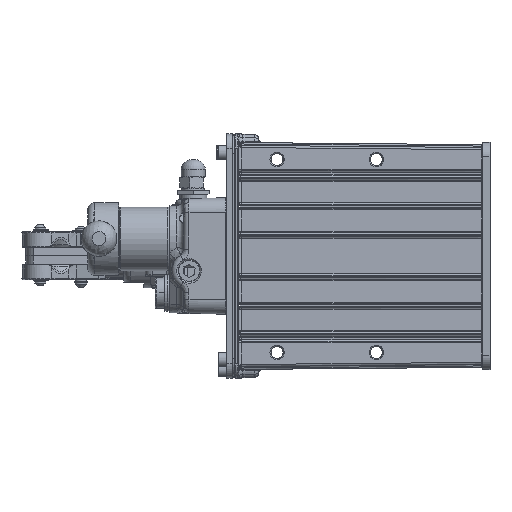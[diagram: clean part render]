
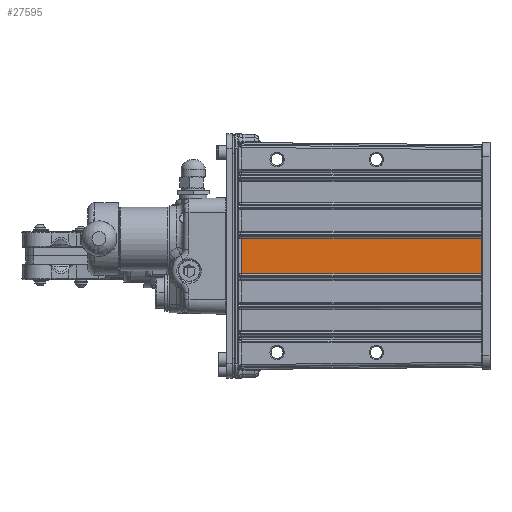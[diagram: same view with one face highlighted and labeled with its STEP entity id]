
A CAD part, left-side view. The second image highlights one B-rep face of the part: STEP entity #27595.
In plain terms, the highlighted planar face has unit normal (-1, -0.009, 0).
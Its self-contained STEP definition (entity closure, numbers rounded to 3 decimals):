
#2286=LINE('',#58020,#3945);
#2287=LINE('',#58029,#3946);
#2288=LINE('',#58032,#3947);
#2289=LINE('',#58033,#3948);
#3945=VECTOR('',#37511,1000.);
#3946=VECTOR('',#37516,1000.);
#3947=VECTOR('',#37517,1000.);
#3948=VECTOR('',#37518,1000.);
#8463=ORIENTED_EDGE('',*,*,#15174,.T.);
#8464=ORIENTED_EDGE('',*,*,#15175,.T.);
#8465=ORIENTED_EDGE('',*,*,#15171,.T.);
#8466=ORIENTED_EDGE('',*,*,#15176,.T.);
#15171=EDGE_CURVE('',#19231,#19232,#2286,.T.);
#15174=EDGE_CURVE('',#19233,#19234,#2287,.T.);
#15175=EDGE_CURVE('',#19234,#19231,#2288,.T.);
#15176=EDGE_CURVE('',#19232,#19233,#2289,.T.);
#19231=VERTEX_POINT('',#58021);
#19232=VERTEX_POINT('',#58022);
#19233=VERTEX_POINT('',#58030);
#19234=VERTEX_POINT('',#58031);
#23470=EDGE_LOOP('',(#8463,#8464,#8465,#8466));
#25382=FACE_BOUND('',#23470,.T.);
#26744=PLANE('',#32505);
#27595=ADVANCED_FACE('',(#25382),#26744,.T.);
#32505=AXIS2_PLACEMENT_3D('',#58028,#37514,#37515);
#37511=DIRECTION('',(-0.009,1.,0.));
#37514=DIRECTION('',(-1.,-0.009,0.));
#37515=DIRECTION('',(0.009,-1.,0.));
#37516=DIRECTION('',(0.009,-1.,0.));
#37517=DIRECTION('',(0.,0.,1.));
#37518=DIRECTION('',(0.,0.,-1.));
#58020=CARTESIAN_POINT('',(-231.763,-71.388,12.5));
#58021=CARTESIAN_POINT('',(-230.288,-240.414,12.5));
#58022=CARTESIAN_POINT('',(-231.763,-71.388,12.5));
#58028=CARTESIAN_POINT('',(-231.807,-66.405,78.));
#58029=CARTESIAN_POINT('',(-230.279,-241.405,-12.5));
#58030=CARTESIAN_POINT('',(-231.763,-71.388,-12.5));
#58031=CARTESIAN_POINT('',(-230.288,-240.414,-12.5));
#58032=CARTESIAN_POINT('',(-230.288,-240.414,12.5));
#58033=CARTESIAN_POINT('',(-231.763,-71.388,78.));
